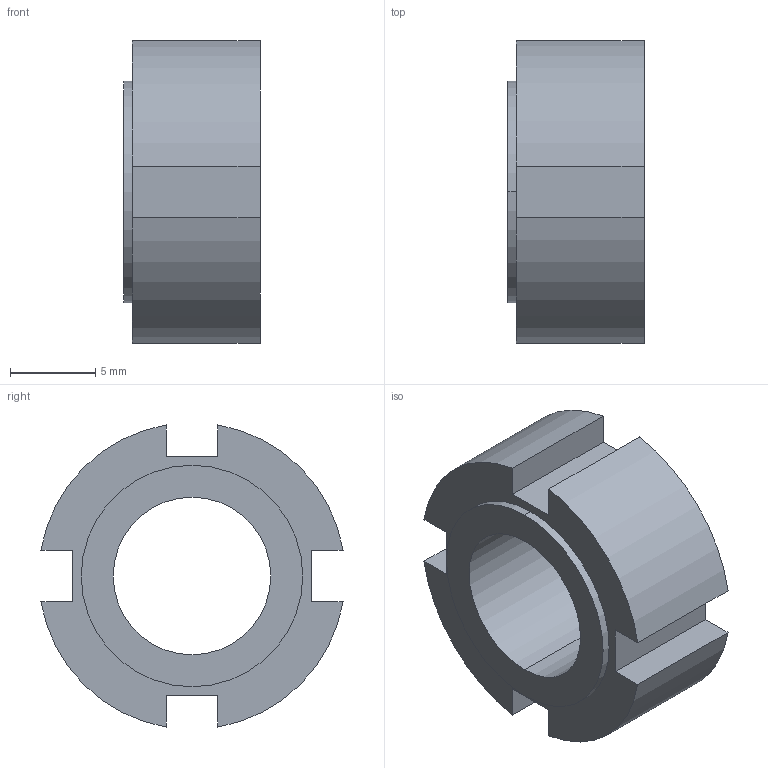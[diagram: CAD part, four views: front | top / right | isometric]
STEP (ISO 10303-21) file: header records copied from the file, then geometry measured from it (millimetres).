
FILE_DESCRIPTION (( 'STEP AP203' ), '1' );
FILE_NAME ('HIR10.STEP', '2002-08-15T11:39:37', ( '.' ), ( '.' ), 'SwSTEP 2.0', 'SolidWorks 2001340', '' );
FILE_SCHEMA (( 'CONFIG_CONTROL_DESIGN' ));
Length unit declared in the file: millimetre
Products named in the file (1): HIR10
Bounding box: 8 x 17.75 x 17.75 mm (x, y, z)
Volume: 1261 mm3; surface area: 1116.6 mm2
Topology: 1 solids, 1 shells, 23 faces, 60 edges, 40 vertices
Faces by surface type: plane 15, cylinder 8
Entity records: 791 total; most frequent: CARTESIAN_POINT 124, DIRECTION 124, ORIENTED_EDGE 120, EDGE_CURVE 60, LINE 44, VECTOR 44, VERTEX_POINT 40, AXIS2_PLACEMENT_3D 40
